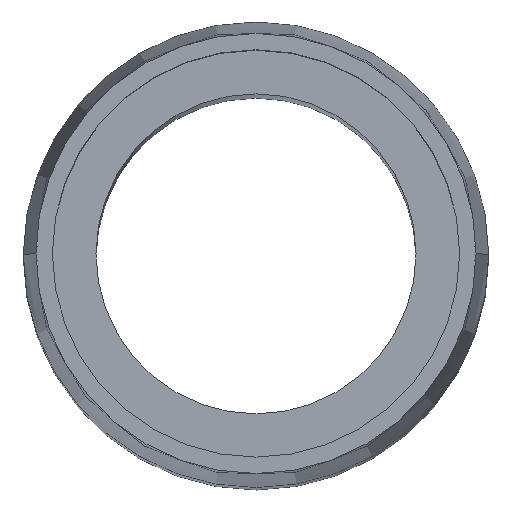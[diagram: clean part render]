
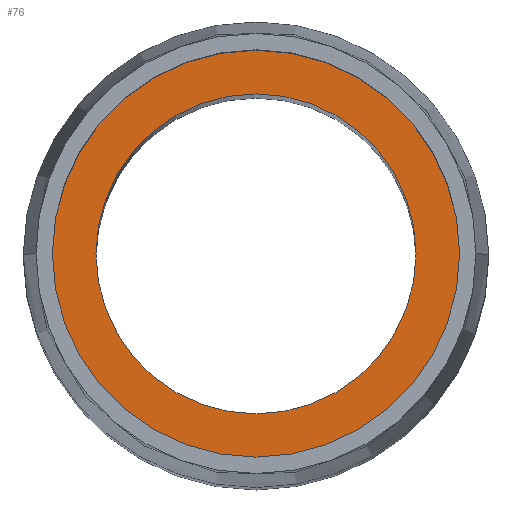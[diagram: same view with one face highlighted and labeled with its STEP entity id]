
A CAD part, top view. The second image highlights one B-rep face of the part: STEP entity #76.
In plain terms, the highlighted planar face has unit normal (0, 0, 1).
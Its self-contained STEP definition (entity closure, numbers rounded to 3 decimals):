
#14 = EDGE_CURVE ( 'NONE', #15, #19, #54, .T. ) ;
#15 = VERTEX_POINT ( 'NONE', #55 ) ;
#19 = VERTEX_POINT ( 'NONE', #41 ) ;
#41 = CARTESIAN_POINT ( 'NONE',  ( 14., 0., 133.5 ) ) ;
#51 = DIRECTION ( 'NONE',  ( 1., 0., 0. ) ) ;
#52 = DIRECTION ( 'NONE',  ( 0., 0., 1. ) ) ;
#53 = AXIS2_PLACEMENT_3D ( 'NONE', #77, #52, #51 ) ;
#54 = CIRCLE ( 'NONE', #53, 14. ) ;
#55 = CARTESIAN_POINT ( 'NONE',  ( -14., 0., 133.5 ) ) ;
#71 = ORIENTED_EDGE ( 'NONE', *, *, #103, .F. ) ;
#73 = EDGE_LOOP ( 'NONE', ( #71, #75 ) ) ;
#75 = ORIENTED_EDGE ( 'NONE', *, *, #105, .F. ) ;
#76 = ADVANCED_FACE ( 'NONE', ( #233, #316 ), #308, .T. ) ;
#77 = CARTESIAN_POINT ( 'NONE',  ( 0., 0., 133.5 ) ) ;
#79 = EDGE_LOOP ( 'NONE', ( #80, #81 ) ) ;
#80 = ORIENTED_EDGE ( 'NONE', *, *, #84, .T. ) ;
#81 = ORIENTED_EDGE ( 'NONE', *, *, #14, .T. ) ;
#84 = EDGE_CURVE ( 'NONE', #19, #15, #221, .T. ) ;
#103 = EDGE_CURVE ( 'NONE', #168, #200, #253, .T. ) ;
#105 = EDGE_CURVE ( 'NONE', #200, #168, #211, .T. ) ;
#168 = VERTEX_POINT ( 'NONE', #377 ) ;
#200 = VERTEX_POINT ( 'NONE', #263 ) ;
#211 = CIRCLE ( 'NONE', #248, 11. ) ;
#218 = DIRECTION ( 'NONE',  ( 1., 0., 0. ) ) ;
#219 = DIRECTION ( 'NONE',  ( 0., 0., 1. ) ) ;
#220 = AXIS2_PLACEMENT_3D ( 'NONE', #230, #219, #218 ) ;
#221 = CIRCLE ( 'NONE', #220, 14. ) ;
#228 = DIRECTION ( 'NONE',  ( 1., 0., 0. ) ) ;
#229 = DIRECTION ( 'NONE',  ( 0., 0., 1. ) ) ;
#230 = CARTESIAN_POINT ( 'NONE',  ( 0., 0., 133.5 ) ) ;
#233 = FACE_BOUND ( 'NONE', #73, .T. ) ;
#240 = DIRECTION ( 'NONE',  ( 1., 0., 0. ) ) ;
#241 = DIRECTION ( 'NONE',  ( 0., 0., 1. ) ) ;
#244 = DIRECTION ( 'NONE',  ( 1., 0., 0. ) ) ;
#245 = DIRECTION ( 'NONE',  ( 0., 0., 1. ) ) ;
#246 = CARTESIAN_POINT ( 'NONE',  ( 0., 0., 133.5 ) ) ;
#247 = AXIS2_PLACEMENT_3D ( 'NONE', #246, #245, #244 ) ;
#248 = AXIS2_PLACEMENT_3D ( 'NONE', #426, #241, #240 ) ;
#253 = CIRCLE ( 'NONE', #247, 11. ) ;
#263 = CARTESIAN_POINT ( 'NONE',  ( 11., 0., 133.5 ) ) ;
#308 = PLANE ( 'NONE',  #317 ) ;
#311 = CARTESIAN_POINT ( 'NONE',  ( 0., 0., 133.5 ) ) ;
#316 = FACE_OUTER_BOUND ( 'NONE', #79, .T. ) ;
#317 = AXIS2_PLACEMENT_3D ( 'NONE', #311, #229, #228 ) ;
#377 = CARTESIAN_POINT ( 'NONE',  ( -11., 0., 133.5 ) ) ;
#426 = CARTESIAN_POINT ( 'NONE',  ( 0., 0., 133.5 ) ) ;
